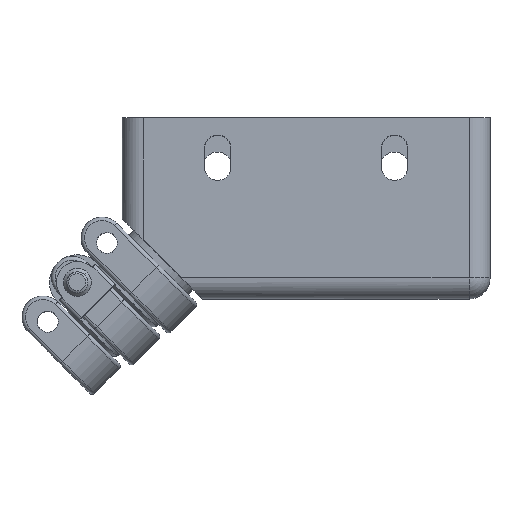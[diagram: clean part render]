
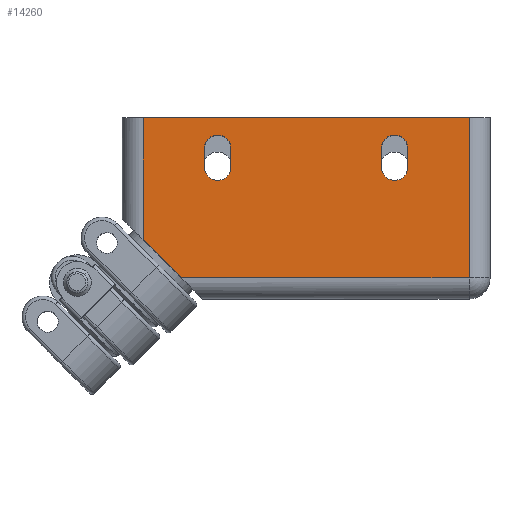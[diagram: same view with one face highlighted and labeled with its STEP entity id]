
A CAD part, top view. The second image highlights one B-rep face of the part: STEP entity #14260.
In plain terms, the highlighted planar face has unit normal (0, 0, 1).
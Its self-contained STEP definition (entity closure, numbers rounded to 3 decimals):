
#12530=CARTESIAN_POINT('',(-10.463,4.09,21.));
#12540=VERTEX_POINT('',#12530);
#12700=CARTESIAN_POINT('',(-10.463,21.59,21.));
#12710=VERTEX_POINT('',#12700);
#12740=CARTESIAN_POINT('',(-10.463,0.,21.));
#12750=DIRECTION('',(0.,1.,0.));
#12760=VECTOR('',#12750,1.);
#12770=LINE('',#12740,#12760);
#12780=EDGE_CURVE('',#12540,#12710,#12770,.T.);
#13030=CARTESIAN_POINT('',(-4.963,-1.41,21.));
#13040=VERTEX_POINT('',#13030);
#13070=CARTESIAN_POINT('',(0.,-1.41,21.));
#13080=DIRECTION('',(1.,0.,0.));
#13090=VECTOR('',#13080,1.);
#13100=LINE('',#13070,#13090);
#13110=CARTESIAN_POINT('',(36.337,-1.41,21.));
#13120=VERTEX_POINT('',#13110);
#13130=EDGE_CURVE('',#13040,#13120,#13100,.T.);
#13250=CARTESIAN_POINT('',(0.,0.,21.));
#13260=DIRECTION('',(0.,0.,1.));
#13270=DIRECTION('',(1.,0.,0.));
#13280=AXIS2_PLACEMENT_3D('',#13250,#13260,#13270);
#13290=PLANE('',#13280);
#13300=CARTESIAN_POINT('',(27.537,21.59,21.));
#13310=DIRECTION('',(0.,1.,0.));
#13320=VECTOR('',#13310,1.);
#13330=LINE('',#13300,#13320);
#13340=CARTESIAN_POINT('',(27.537,14.49,21.));
#13350=VERTEX_POINT('',#13340);
#13360=CARTESIAN_POINT('',(27.537,17.19,21.));
#13370=VERTEX_POINT('',#13360);
#13380=EDGE_CURVE('',#13350,#13370,#13330,.T.);
#13390=ORIENTED_EDGE('',*,*,#13380,.F.);
#13400=CARTESIAN_POINT('',(25.637,17.19,21.));
#13410=DIRECTION('',(0.,0.,-1.));
#13420=DIRECTION('',(-1.,0.,0.));
#13430=AXIS2_PLACEMENT_3D('',#13400,#13410,#13420);
#13440=CIRCLE('',#13430,1.9);
#13450=CARTESIAN_POINT('',(23.737,17.19,21.));
#13460=VERTEX_POINT('',#13450);
#13470=EDGE_CURVE('',#13460,#13370,#13440,.T.);
#13480=ORIENTED_EDGE('',*,*,#13470,.T.);
#13490=CARTESIAN_POINT('',(23.737,21.59,21.));
#13500=DIRECTION('',(0.,1.,0.));
#13510=VECTOR('',#13500,1.);
#13520=LINE('',#13490,#13510);
#13530=CARTESIAN_POINT('',(23.737,14.49,21.));
#13540=VERTEX_POINT('',#13530);
#13550=EDGE_CURVE('',#13540,#13460,#13520,.T.);
#13560=ORIENTED_EDGE('',*,*,#13550,.T.);
#13570=CARTESIAN_POINT('',(25.637,14.49,21.));
#13580=DIRECTION('',(0.,0.,1.));
#13590=DIRECTION('',(-1.,0.,0.));
#13600=AXIS2_PLACEMENT_3D('',#13570,#13580,#13590);
#13610=CIRCLE('',#13600,1.9);
#13620=EDGE_CURVE('',#13540,#13350,#13610,.T.);
#13630=ORIENTED_EDGE('',*,*,#13620,.F.);
#13640=EDGE_LOOP('',(#13630,#13560,#13480,#13390));
#13650=FACE_BOUND('',#13640,.T.);
#13660=CARTESIAN_POINT('',(2.137,21.59,21.));
#13670=DIRECTION('',(0.,1.,0.));
#13680=VECTOR('',#13670,1.);
#13690=LINE('',#13660,#13680);
#13700=CARTESIAN_POINT('',(2.137,14.49,21.));
#13710=VERTEX_POINT('',#13700);
#13720=CARTESIAN_POINT('',(2.137,17.19,21.));
#13730=VERTEX_POINT('',#13720);
#13740=EDGE_CURVE('',#13710,#13730,#13690,.T.);
#13750=ORIENTED_EDGE('',*,*,#13740,.F.);
#13760=CARTESIAN_POINT('',(0.237,17.19,21.));
#13770=DIRECTION('',(0.,0.,1.));
#13780=DIRECTION('',(1.,0.,0.));
#13790=AXIS2_PLACEMENT_3D('',#13760,#13770,#13780);
#13800=CIRCLE('',#13790,1.9);
#13810=CARTESIAN_POINT('',(-1.663,17.19,21.));
#13820=VERTEX_POINT('',#13810);
#13830=EDGE_CURVE('',#13730,#13820,#13800,.T.);
#13840=ORIENTED_EDGE('',*,*,#13830,.F.);
#13850=CARTESIAN_POINT('',(-1.663,21.59,21.));
#13860=DIRECTION('',(0.,1.,0.));
#13870=VECTOR('',#13860,1.);
#13880=LINE('',#13850,#13870);
#13890=CARTESIAN_POINT('',(-1.663,14.49,21.));
#13900=VERTEX_POINT('',#13890);
#13910=EDGE_CURVE('',#13900,#13820,#13880,.T.);
#13920=ORIENTED_EDGE('',*,*,#13910,.T.);
#13930=CARTESIAN_POINT('',(0.237,14.49,21.));
#13940=DIRECTION('',(0.,0.,-1.));
#13950=DIRECTION('',(1.,0.,0.));
#13960=AXIS2_PLACEMENT_3D('',#13930,#13940,#13950);
#13970=CIRCLE('',#13960,1.9);
#13980=EDGE_CURVE('',#13710,#13900,#13970,.T.);
#13990=ORIENTED_EDGE('',*,*,#13980,.T.);
#14000=EDGE_LOOP('',(#13990,#13920,#13840,#13750));
#14010=FACE_BOUND('',#14000,.T.);
#14020=ORIENTED_EDGE('',*,*,#13130,.T.);
#14030=CARTESIAN_POINT('',(-6.373,0.,21.));
#14040=DIRECTION('',(-0.707,0.707,0.));
#14050=VECTOR('',#14040,1.);
#14060=LINE('',#14030,#14050);
#14070=EDGE_CURVE('',#13040,#12540,#14060,.T.);
#14080=ORIENTED_EDGE('',*,*,#14070,.F.);
#14090=ORIENTED_EDGE('',*,*,#12780,.F.);
#14100=CARTESIAN_POINT('',(0.,21.59,21.));
#14110=DIRECTION('',(1.,0.,0.));
#14120=VECTOR('',#14110,1.);
#14130=LINE('',#14100,#14120);
#14140=CARTESIAN_POINT('',(36.337,21.59,21.));
#14150=VERTEX_POINT('',#14140);
#14160=EDGE_CURVE('',#12710,#14150,#14130,.T.);
#14170=ORIENTED_EDGE('',*,*,#14160,.F.);
#14180=CARTESIAN_POINT('',(36.337,0.,21.));
#14190=DIRECTION('',(0.,1.,0.));
#14200=VECTOR('',#14190,1.);
#14210=LINE('',#14180,#14200);
#14220=EDGE_CURVE('',#13120,#14150,#14210,.T.);
#14230=ORIENTED_EDGE('',*,*,#14220,.T.);
#14240=EDGE_LOOP('',(#14230,#14170,#14090,#14080,#14020));
#14250=FACE_OUTER_BOUND('',#14240,.T.);
#14260=ADVANCED_FACE('',(#13650,#14010,#14250),#13290,.T.);
